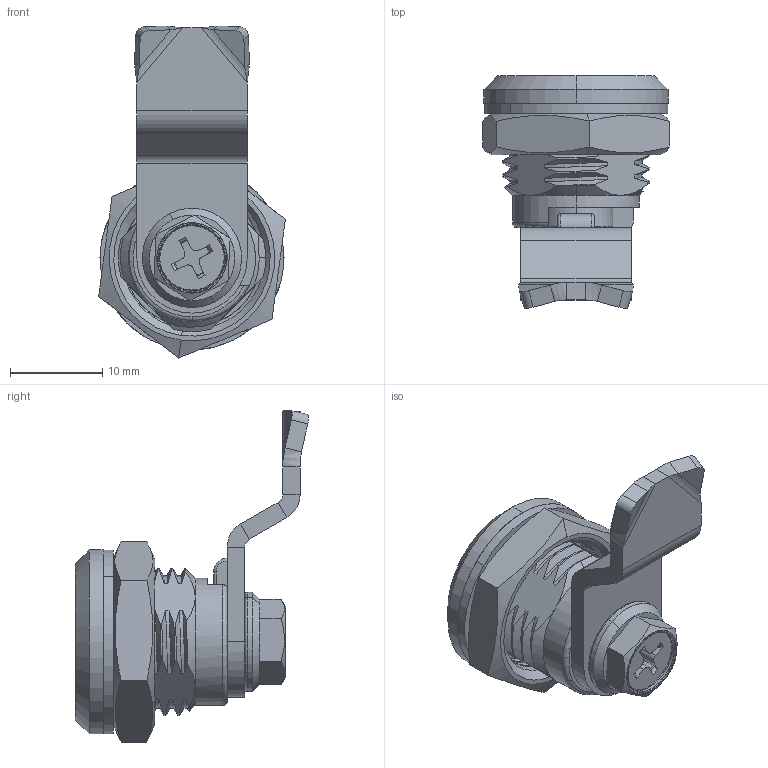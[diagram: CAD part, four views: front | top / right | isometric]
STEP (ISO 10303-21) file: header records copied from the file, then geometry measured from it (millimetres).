
FILE_DESCRIPTION (( 'STEP AP214' ), '1' );
FILE_NAME ('CUYUE.D1-1414-1.STEP', '2026-06-17T00:45:31', ( '' ), ( '' ), 'SwSTEP 2.0', 'SolidWorks 2020', '' );
FILE_SCHEMA (( 'AUTOMOTIVE_DESIGN' ));
Length unit declared in the file: millimetre
Products named in the file (9): 坶え; M5X8蹟隊; CUYUE.D1-1414-1; D1-1414-1坶郋; 1.9x12密封圈; D1-1414坶褲; M16X1蹟譫; 耳12X耳8.4X2X0.3疏恇菜え; 砎蝶菜20x16x14x1.1
Assembly tree (8 placements, depth 2):
  CUYUE.D1-1414-1
    1.9x12密封圈
    耳12X耳8.4X2X0.3疏恇菜え
    坶え
    砎蝶菜20x16x14x1.1
    M16X1蹟譫
    M5X8蹟隊
    D1-1414坶褲
    D1-1414-1坶郋
Bounding box: 20.28 x 25.32 x 36.07 mm (x, y, z)
Volume: 4446 mm3; surface area: 5818.7 mm2
Topology: 8 solids, 8 shells, 380 faces, 980 edges, 617 vertices
Faces by surface type: plane 122, cylinder 121, bspline 82, cone 35, torus 18, sphere 2
Entity records: 31258 total; most frequent: CARTESIAN_POINT 22255, ORIENTED_EDGE 1952, DIRECTION 1334, EDGE_CURVE 976, VERTEX_POINT 617, AXIS2_PLACEMENT_3D 483, EDGE_LOOP 397, ADVANCED_FACE 380
